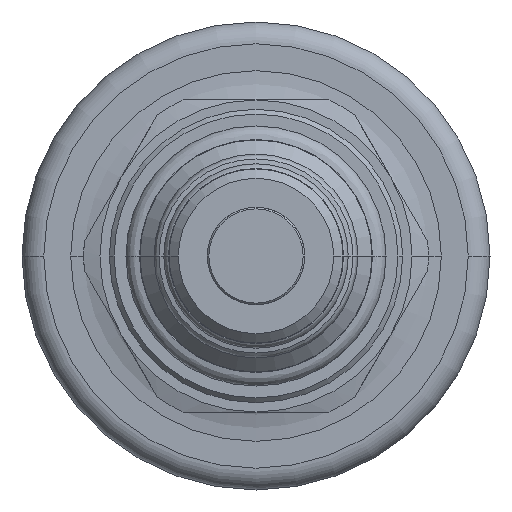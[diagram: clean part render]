
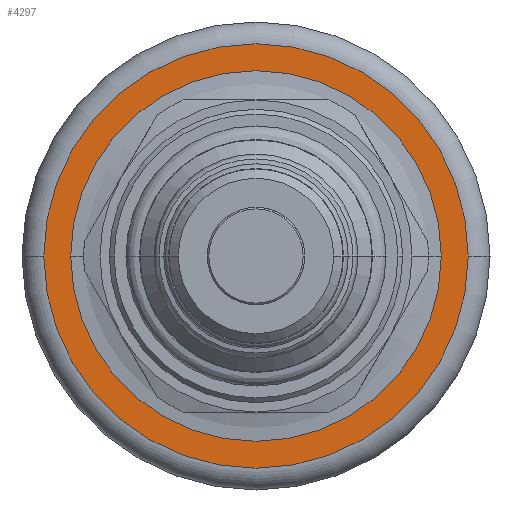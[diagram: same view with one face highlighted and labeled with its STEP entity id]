
A CAD part, front view. The second image highlights one B-rep face of the part: STEP entity #4297.
In plain terms, the highlighted planar face has unit normal (0, -1, 0).
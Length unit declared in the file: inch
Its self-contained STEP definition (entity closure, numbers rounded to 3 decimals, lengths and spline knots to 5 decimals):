
#1721=CARTESIAN_POINT('',(0.,3.218,0.));
#1722=DIRECTION('',(0.,1.,0.));
#1723=DIRECTION('',(1.,0.,0.));
#1724=AXIS2_PLACEMENT_3D('',#1721,#1722,#1723);
#1726=CARTESIAN_POINT('',(0.,3.218,0.));
#1727=DIRECTION('',(0.,-1.,0.));
#1728=DIRECTION('',(1.,0.,0.));
#1729=AXIS2_PLACEMENT_3D('',#1726,#1727,#1728);
#1731=CARTESIAN_POINT('',(0.,3.218,0.));
#1732=DIRECTION('',(0.,-1.,0.));
#1733=DIRECTION('',(1.,0.,0.));
#1734=AXIS2_PLACEMENT_3D('',#1731,#1732,#1733);
#1746=CARTESIAN_POINT('',(0.,3.218,0.));
#1747=DIRECTION('',(0.,1.,0.));
#1748=DIRECTION('',(1.,0.,0.));
#1749=AXIS2_PLACEMENT_3D('',#1746,#1747,#1748);
#2107=CARTESIAN_POINT('',(0.59375,3.218,0.));
#2108=VERTEX_POINT('',#2107);
#2109=CARTESIAN_POINT('',(0.68,3.218,0.));
#2111=VERTEX_POINT('',#2109);
#2119=CARTESIAN_POINT('',(-0.59375,3.218,0.));
#2120=VERTEX_POINT('',#2119);
#2121=CARTESIAN_POINT('',(-0.68,3.218,0.));
#2123=VERTEX_POINT('',#2121);
#4282=CARTESIAN_POINT('',(0.,3.218,0.));
#4283=DIRECTION('',(0.,-1.,0.));
#4284=DIRECTION('',(-1.,0.,0.));
#4285=AXIS2_PLACEMENT_3D('',#4282,#4283,#4284);
#4286=PLANE('',#4285);
#4288=ORIENTED_EDGE('',*,*,#4287,.F.);
#4290=ORIENTED_EDGE('',*,*,#4289,.T.);
#4291=EDGE_LOOP('',(#4288,#4290));
#4292=FACE_OUTER_BOUND('',#4291,.F.);
#4293=ORIENTED_EDGE('',*,*,#4275,.F.);
#4294=ORIENTED_EDGE('',*,*,#4264,.T.);
#4295=EDGE_LOOP('',(#4293,#4294));
#4296=FACE_BOUND('',#4295,.F.);
#4297=ADVANCED_FACE('',(#4292,#4296),#4286,.T.);
#1725=CIRCLE('',#1724,0.59375);
#1730=CIRCLE('',#1729,0.59375);
#1735=CIRCLE('',#1734,0.68);
#1750=CIRCLE('',#1749,0.68);
#4264=EDGE_CURVE('',#2108,#2120,#1730,.T.);
#4275=EDGE_CURVE('',#2108,#2120,#1725,.T.);
#4287=EDGE_CURVE('',#2111,#2123,#1735,.T.);
#4289=EDGE_CURVE('',#2111,#2123,#1750,.T.);
